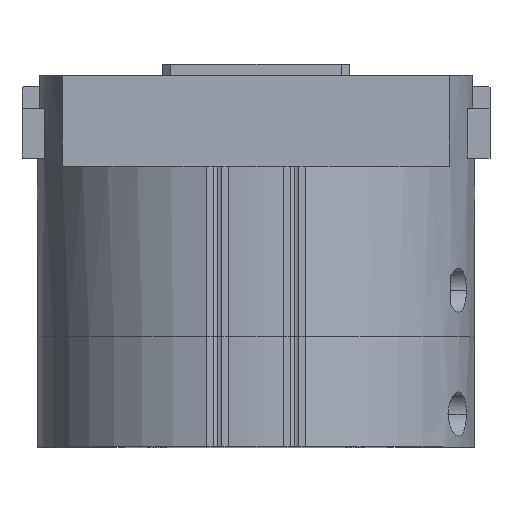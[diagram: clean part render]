
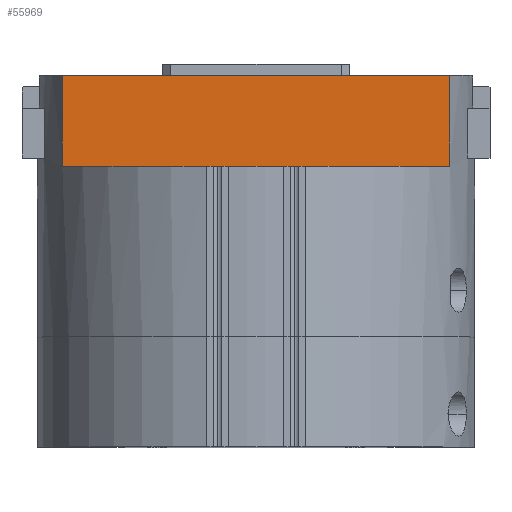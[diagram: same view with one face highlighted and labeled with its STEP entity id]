
A CAD part, top view. The second image highlights one B-rep face of the part: STEP entity #55969.
In plain terms, the highlighted planar face has unit normal (0, 0, 1).
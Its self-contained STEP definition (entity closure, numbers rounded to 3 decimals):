
#2487 = CARTESIAN_POINT ( 'NONE',  ( 0., 95., 37. ) ) ;
#9535 = ORIENTED_EDGE ( 'NONE', *, *, #33833, .F. ) ;
#14965 = EDGE_CURVE ( 'NONE', #48090, #66195, #24462, .T. ) ;
#15106 = PLANE ( 'NONE',  #35303 ) ;
#15922 = ORIENTED_EDGE ( 'NONE', *, *, #14965, .F. ) ;
#21606 = CARTESIAN_POINT ( 'NONE',  ( -70.365, 95., 37. ) ) ;
#21989 = ORIENTED_EDGE ( 'NONE', *, *, #101616, .F. ) ;
#23041 = VERTEX_POINT ( 'NONE', #38076 ) ;
#23814 = DIRECTION ( 'NONE',  ( -1., 0., 0. ) ) ;
#24029 = EDGE_LOOP ( 'NONE', ( #70088, #21989, #9535, #15922 ) ) ;
#24462 = LINE ( 'NONE', #2487, #42009 ) ;
#25854 = CARTESIAN_POINT ( 'NONE',  ( 70.365, 95., 37. ) ) ;
#33833 = EDGE_CURVE ( 'NONE', #66195, #104682, #98274, .T. ) ;
#34804 = VECTOR ( 'NONE', #67815, 1000. ) ;
#35303 = AXIS2_PLACEMENT_3D ( 'NONE', #109948, #75579, #23814 ) ;
#38076 = CARTESIAN_POINT ( 'NONE',  ( -70.365, 62., 37. ) ) ;
#42009 = VECTOR ( 'NONE', #46670, 1000. ) ;
#46670 = DIRECTION ( 'NONE',  ( 1., 0., 0. ) ) ;
#47659 = FACE_OUTER_BOUND ( 'NONE', #24029, .T. ) ;
#48090 = VERTEX_POINT ( 'NONE', #108474 ) ;
#52025 = LINE ( 'NONE', #73944, #54703 ) ;
#54703 = VECTOR ( 'NONE', #100252, 1000. ) ;
#55969 = ADVANCED_FACE ( 'NONE', ( #47659 ), #15106, .F. ) ;
#59103 = CARTESIAN_POINT ( 'NONE',  ( 70.365, 95., 37. ) ) ;
#66195 = VERTEX_POINT ( 'NONE', #25854 ) ;
#67815 = DIRECTION ( 'NONE',  ( 0., -1., 0. ) ) ;
#68279 = CARTESIAN_POINT ( 'NONE',  ( 70.365, 62., 37. ) ) ;
#70088 = ORIENTED_EDGE ( 'NONE', *, *, #104087, .F. ) ;
#73603 = LINE ( 'NONE', #21606, #79053 ) ;
#73944 = CARTESIAN_POINT ( 'NONE',  ( 0., 62., 37. ) ) ;
#75579 = DIRECTION ( 'NONE',  ( 0., 0., -1. ) ) ;
#79053 = VECTOR ( 'NONE', #82064, 1000. ) ;
#82064 = DIRECTION ( 'NONE',  ( 0., 1., 0. ) ) ;
#98274 = LINE ( 'NONE', #59103, #34804 ) ;
#100252 = DIRECTION ( 'NONE',  ( -1., 0., 0. ) ) ;
#101616 = EDGE_CURVE ( 'NONE', #104682, #23041, #52025, .T. ) ;
#104087 = EDGE_CURVE ( 'NONE', #23041, #48090, #73603, .T. ) ;
#104682 = VERTEX_POINT ( 'NONE', #68279 ) ;
#108474 = CARTESIAN_POINT ( 'NONE',  ( -70.365, 95., 37. ) ) ;
#109948 = CARTESIAN_POINT ( 'NONE',  ( -70.365, 62., 37. ) ) ;
